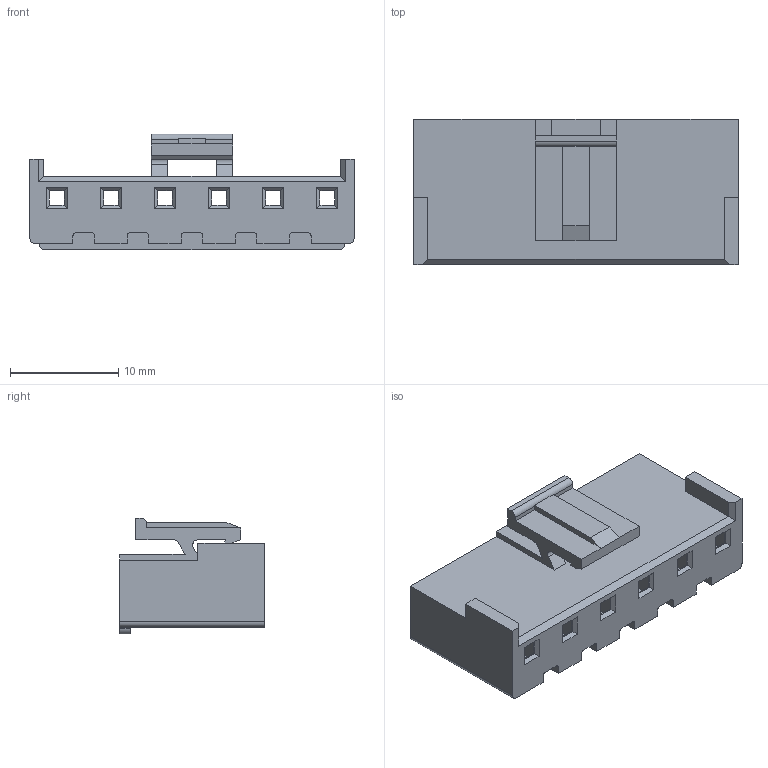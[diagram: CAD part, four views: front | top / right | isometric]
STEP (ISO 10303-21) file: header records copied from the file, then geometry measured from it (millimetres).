
FILE_DESCRIPTION(/* description */ (''),/* implementation_level */ '2;1');
FILE_NAME(/* name */ 'E:\工作文件\现出货3D文件\05德利\DL50003(5003)\HC-5003-NY-05(孔座-HCTL)\HC-5003-6Y-05(孔座-HCTL).stp',/* time_stamp */ '2023-11-25T14:42:29+08:00',/* author */ ('admin'),/* organization */ (''),/* preprocessor_version */ 'ST-DEVELOPER v18.1',/* originating_system */ 'Autodesk Inventor 2021',/* authorisation */ '');
FILE_SCHEMA (('AUTOMOTIVE_DESIGN { 1 0 10303 214 3 1 1 }'));
Length unit declared in the file: millimetre
Products named in the file (1): HC-5003-1Y-05(孔座-HCTL)
Bounding box: 30 x 13.4 x 10.7 mm (x, y, z)
Volume: 1551.7 mm3; surface area: 2868.3 mm2
Topology: 1 solids, 1 shells, 185 faces, 509 edges, 330 vertices
Faces by surface type: plane 166, cylinder 19
Entity records: 5828 total; most frequent: CARTESIAN_POINT 1025, ORIENTED_EDGE 1018, DIRECTION 921, EDGE_CURVE 509, LINE 469, VECTOR 469, VERTEX_POINT 330, AXIS2_PLACEMENT_3D 226
